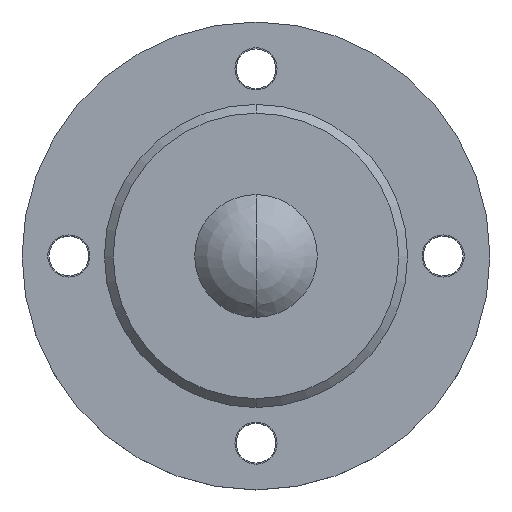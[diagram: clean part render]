
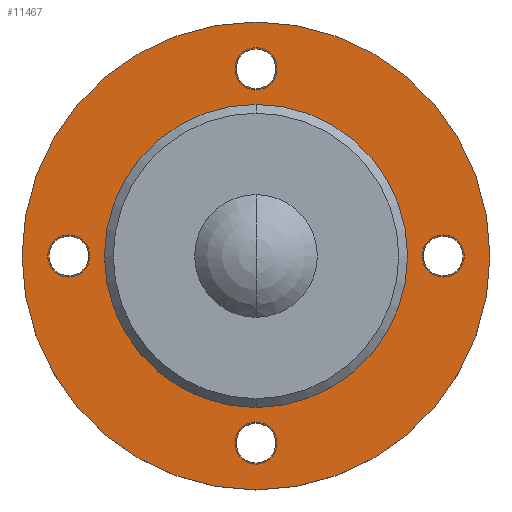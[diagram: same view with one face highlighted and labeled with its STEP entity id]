
A CAD part, top view. The second image highlights one B-rep face of the part: STEP entity #11467.
In plain terms, the highlighted planar face has unit normal (0, 0, 1).
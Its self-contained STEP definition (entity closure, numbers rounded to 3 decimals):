
#4079=CARTESIAN_POINT('',(0.,0.,34.));
#4080=DIRECTION('',(0.,0.,1.));
#4081=DIRECTION('',(1.,0.,0.));
#4082=AXIS2_PLACEMENT_3D('',#4079,#4080,#4081);
#4084=CARTESIAN_POINT('',(0.,0.,34.));
#4085=DIRECTION('',(0.,0.,1.));
#4086=DIRECTION('',(-1.,0.,0.));
#4087=AXIS2_PLACEMENT_3D('',#4084,#4085,#4086);
#4089=CARTESIAN_POINT('',(-80.,0.,34.));
#4090=DIRECTION('',(0.,0.,1.));
#4091=DIRECTION('',(-1.,0.,0.));
#4092=AXIS2_PLACEMENT_3D('',#4089,#4090,#4091);
#4094=CARTESIAN_POINT('',(-80.,0.,34.));
#4095=DIRECTION('',(0.,0.,1.));
#4096=DIRECTION('',(1.,0.,0.));
#4097=AXIS2_PLACEMENT_3D('',#4094,#4095,#4096);
#4099=CARTESIAN_POINT('',(0.,-80.,34.));
#4100=DIRECTION('',(0.,0.,1.));
#4101=DIRECTION('',(0.,-1.,0.));
#4102=AXIS2_PLACEMENT_3D('',#4099,#4100,#4101);
#4104=CARTESIAN_POINT('',(0.,-80.,34.));
#4105=DIRECTION('',(0.,0.,1.));
#4106=DIRECTION('',(0.,1.,0.));
#4107=AXIS2_PLACEMENT_3D('',#4104,#4105,#4106);
#4109=CARTESIAN_POINT('',(80.,0.,34.));
#4110=DIRECTION('',(0.,0.,1.));
#4111=DIRECTION('',(1.,0.,0.));
#4112=AXIS2_PLACEMENT_3D('',#4109,#4110,#4111);
#4114=CARTESIAN_POINT('',(80.,0.,34.));
#4115=DIRECTION('',(0.,0.,1.));
#4116=DIRECTION('',(-1.,0.,0.));
#4117=AXIS2_PLACEMENT_3D('',#4114,#4115,#4116);
#4119=CARTESIAN_POINT('',(0.,80.,34.));
#4120=DIRECTION('',(0.,0.,1.));
#4121=DIRECTION('',(0.,1.,0.));
#4122=AXIS2_PLACEMENT_3D('',#4119,#4120,#4121);
#4124=CARTESIAN_POINT('',(0.,80.,34.));
#4125=DIRECTION('',(0.,0.,1.));
#4126=DIRECTION('',(0.,-1.,0.));
#4127=AXIS2_PLACEMENT_3D('',#4124,#4125,#4126);
#4129=CARTESIAN_POINT('',(0.,0.,34.));
#4130=DIRECTION('',(0.,0.,-1.));
#4131=DIRECTION('',(0.,1.,0.));
#4132=AXIS2_PLACEMENT_3D('',#4129,#4130,#4131);
#4134=CARTESIAN_POINT('',(0.,0.,34.));
#4135=DIRECTION('',(0.,0.,-1.));
#4136=DIRECTION('',(0.,-1.,0.));
#4137=AXIS2_PLACEMENT_3D('',#4134,#4135,#4136);
#5563=CARTESIAN_POINT('',(100.,0.,34.));
#5564=CARTESIAN_POINT('',(-100.,0.,34.));
#5565=VERTEX_POINT('',#5563);
#5566=VERTEX_POINT('',#5564);
#5575=CARTESIAN_POINT('',(-88.5,0.,34.));
#5576=CARTESIAN_POINT('',(-71.5,0.,34.));
#5577=VERTEX_POINT('',#5575);
#5578=VERTEX_POINT('',#5576);
#5583=CARTESIAN_POINT('',(0.,-88.5,34.));
#5584=CARTESIAN_POINT('',(0.,-71.5,34.));
#5585=VERTEX_POINT('',#5583);
#5586=VERTEX_POINT('',#5584);
#5591=CARTESIAN_POINT('',(88.5,0.,34.));
#5592=CARTESIAN_POINT('',(71.5,0.,34.));
#5593=VERTEX_POINT('',#5591);
#5594=VERTEX_POINT('',#5592);
#5599=CARTESIAN_POINT('',(0.,88.5,34.));
#5600=CARTESIAN_POINT('',(0.,71.5,34.));
#5601=VERTEX_POINT('',#5599);
#5602=VERTEX_POINT('',#5600);
#5613=CARTESIAN_POINT('',(0.,64.789,34.));
#5614=CARTESIAN_POINT('',(0.,-64.789,34.));
#5615=VERTEX_POINT('',#5613);
#5616=VERTEX_POINT('',#5614);
#11428=CARTESIAN_POINT('',(0.,0.,34.));
#11429=DIRECTION('',(0.,0.,1.));
#11430=DIRECTION('',(1.,0.,0.));
#11431=AXIS2_PLACEMENT_3D('',#11428,#11429,#11430);
#11432=PLANE('',#11431);
#11433=ORIENTED_EDGE('',*,*,#11408,.F.);
#11434=ORIENTED_EDGE('',*,*,#11422,.F.);
#11435=EDGE_LOOP('',(#11433,#11434));
#11436=FACE_OUTER_BOUND('',#11435,.F.);
#11438=ORIENTED_EDGE('',*,*,#11437,.T.);
#11440=ORIENTED_EDGE('',*,*,#11439,.T.);
#11441=EDGE_LOOP('',(#11438,#11440));
#11442=FACE_BOUND('',#11441,.F.);
#11444=ORIENTED_EDGE('',*,*,#11443,.T.);
#11446=ORIENTED_EDGE('',*,*,#11445,.T.);
#11447=EDGE_LOOP('',(#11444,#11446));
#11448=FACE_BOUND('',#11447,.F.);
#11450=ORIENTED_EDGE('',*,*,#11449,.T.);
#11452=ORIENTED_EDGE('',*,*,#11451,.T.);
#11453=EDGE_LOOP('',(#11450,#11452));
#11454=FACE_BOUND('',#11453,.F.);
#11456=ORIENTED_EDGE('',*,*,#11455,.T.);
#11458=ORIENTED_EDGE('',*,*,#11457,.T.);
#11459=EDGE_LOOP('',(#11456,#11458));
#11460=FACE_BOUND('',#11459,.F.);
#11462=ORIENTED_EDGE('',*,*,#11461,.F.);
#11464=ORIENTED_EDGE('',*,*,#11463,.F.);
#11465=EDGE_LOOP('',(#11462,#11464));
#11466=FACE_BOUND('',#11465,.F.);
#11467=ADVANCED_FACE('',(#11436,#11442,#11448,#11454,#11460,#11466),#11432,.T.);
#4083=CIRCLE('',#4082,100.);
#4088=CIRCLE('',#4087,100.);
#4093=CIRCLE('',#4092,8.5);
#4098=CIRCLE('',#4097,8.5);
#4103=CIRCLE('',#4102,8.5);
#4108=CIRCLE('',#4107,8.5);
#4113=CIRCLE('',#4112,8.5);
#4118=CIRCLE('',#4117,8.5);
#4123=CIRCLE('',#4122,8.5);
#4128=CIRCLE('',#4127,8.5);
#4133=CIRCLE('',#4132,64.789);
#4138=CIRCLE('',#4137,64.789);
#11408=EDGE_CURVE('',#5565,#5566,#4083,.T.);
#11422=EDGE_CURVE('',#5566,#5565,#4088,.T.);
#11437=EDGE_CURVE('',#5577,#5578,#4093,.T.);
#11439=EDGE_CURVE('',#5578,#5577,#4098,.T.);
#11443=EDGE_CURVE('',#5585,#5586,#4103,.T.);
#11445=EDGE_CURVE('',#5586,#5585,#4108,.T.);
#11449=EDGE_CURVE('',#5593,#5594,#4113,.T.);
#11451=EDGE_CURVE('',#5594,#5593,#4118,.T.);
#11455=EDGE_CURVE('',#5601,#5602,#4123,.T.);
#11457=EDGE_CURVE('',#5602,#5601,#4128,.T.);
#11461=EDGE_CURVE('',#5615,#5616,#4133,.T.);
#11463=EDGE_CURVE('',#5616,#5615,#4138,.T.);
